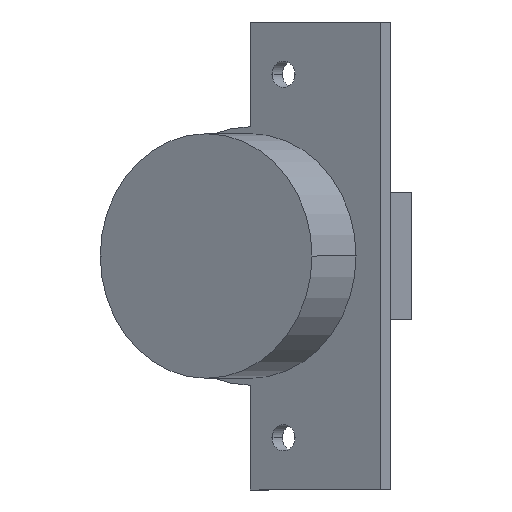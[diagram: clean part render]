
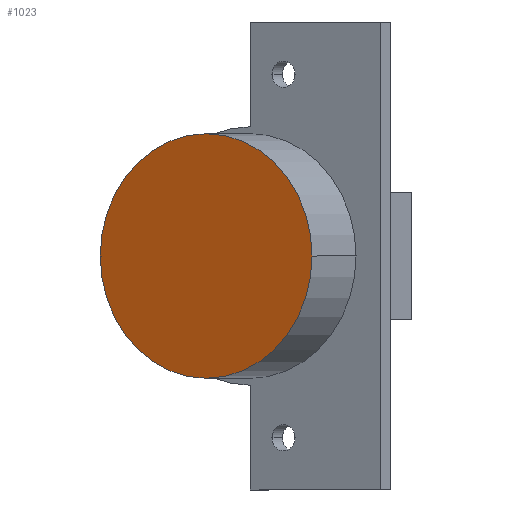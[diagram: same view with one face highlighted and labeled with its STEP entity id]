
A CAD part, front view. The second image highlights one B-rep face of the part: STEP entity #1023.
In plain terms, the highlighted planar face has unit normal (-0.5, -0.866, 0).
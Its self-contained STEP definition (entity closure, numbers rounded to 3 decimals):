
#121 = DIRECTION ( 'NONE',  ( -0.5, -0.866, 0. ) ) ;
#130 = DIRECTION ( 'NONE',  ( 0.866, -0.5, 0. ) ) ;
#333 = ORIENTED_EDGE ( 'NONE', *, *, #1481, .T. ) ;
#357 = DIRECTION ( 'NONE',  ( 0.866, -0.5, 0. ) ) ;
#360 = CARTESIAN_POINT ( 'NONE',  ( -3.613, -48.012, 0. ) ) ;
#364 = AXIS2_PLACEMENT_3D ( 'NONE', #360, #121, #130 ) ;
#382 = VERTEX_POINT ( 'NONE', #1178 ) ;
#402 = FACE_OUTER_BOUND ( 'NONE', #1303, .T. ) ;
#444 = EDGE_CURVE ( 'NONE', #1502, #382, #1156, .T. ) ;
#492 = DIRECTION ( 'NONE',  ( -0.5, -0.866, 0. ) ) ;
#589 = ORIENTED_EDGE ( 'NONE', *, *, #444, .T. ) ;
#593 = PLANE ( 'NONE',  #1048 ) ;
#708 = CARTESIAN_POINT ( 'NONE',  ( -18.768, -39.262, 0. ) ) ;
#711 = CARTESIAN_POINT ( 'NONE',  ( -3.613, -48.012, 0. ) ) ;
#725 = CARTESIAN_POINT ( 'NONE',  ( -3.613, -48.012, 0. ) ) ;
#871 = CIRCLE ( 'NONE', #364, 17.5 ) ;
#963 = DIRECTION ( 'NONE',  ( 0.866, -0.5, 0. ) ) ;
#966 = AXIS2_PLACEMENT_3D ( 'NONE', #725, #1208, #963 ) ;
#1023 = ADVANCED_FACE ( 'NONE', ( #402 ), #593, .T. ) ;
#1048 = AXIS2_PLACEMENT_3D ( 'NONE', #711, #492, #357 ) ;
#1156 = CIRCLE ( 'NONE', #966, 17.5 ) ;
#1178 = CARTESIAN_POINT ( 'NONE',  ( 11.542, -56.762, 0. ) ) ;
#1208 = DIRECTION ( 'NONE',  ( -0.5, -0.866, 0. ) ) ;
#1303 = EDGE_LOOP ( 'NONE', ( #589, #333 ) ) ;
#1481 = EDGE_CURVE ( 'NONE', #382, #1502, #871, .T. ) ;
#1502 = VERTEX_POINT ( 'NONE', #708 ) ;
